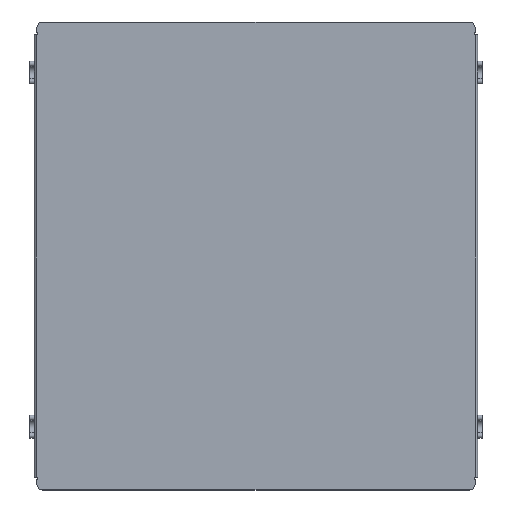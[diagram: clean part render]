
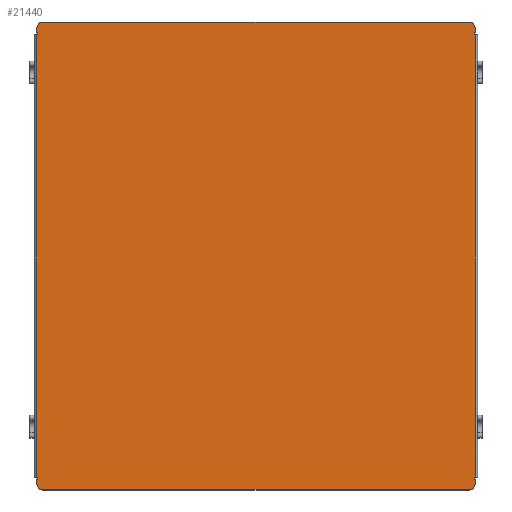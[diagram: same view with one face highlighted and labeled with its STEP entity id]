
A CAD part, top view. The second image highlights one B-rep face of the part: STEP entity #21440.
In plain terms, the highlighted planar face has unit normal (0, 0, 1).
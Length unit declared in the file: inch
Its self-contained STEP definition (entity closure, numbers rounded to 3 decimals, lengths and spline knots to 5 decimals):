
#859=PLANE($,#22841);
#1698=LINE($,#29024,#3843);
#1699=LINE($,#29028,#3844);
#1700=LINE($,#29030,#3845);
#1701=LINE($,#29032,#3846);
#1702=LINE($,#29034,#3847);
#1703=LINE($,#29036,#3848);
#1704=LINE($,#29038,#3849);
#1705=LINE($,#29040,#3850);
#1706=LINE($,#29042,#3851);
#1707=LINE($,#29044,#3852);
#1708=LINE($,#29048,#3853);
#1709=LINE($,#29052,#3854);
#1710=LINE($,#29054,#3855);
#1711=LINE($,#29056,#3856);
#1712=LINE($,#29058,#3857);
#1713=LINE($,#29060,#3858);
#1714=LINE($,#29062,#3859);
#1715=LINE($,#29064,#3860);
#1716=LINE($,#29066,#3861);
#1717=LINE($,#29067,#3862);
#3843=VECTOR($,#24211,16.84);
#3844=VECTOR($,#24214,0.16);
#3845=VECTOR($,#24215,0.046);
#3846=VECTOR($,#24216,0.09);
#3847=VECTOR($,#24217,0.045);
#3848=VECTOR($,#24218,17.5);
#3849=VECTOR($,#24219,0.045);
#3850=VECTOR($,#24220,0.09);
#3851=VECTOR($,#24221,0.046);
#3852=VECTOR($,#24222,0.16);
#3853=VECTOR($,#24225,16.84);
#3854=VECTOR($,#24228,0.16);
#3855=VECTOR($,#24229,0.046);
#3856=VECTOR($,#24230,0.09);
#3857=VECTOR($,#24231,0.045);
#3858=VECTOR($,#24232,17.5);
#3859=VECTOR($,#24233,0.045);
#3860=VECTOR($,#24234,0.09);
#3861=VECTOR($,#24235,0.046);
#3862=VECTOR($,#24236,0.16);
#6170=FACE_OUTER_BOUND($,#7366,.T.);
#7366=EDGE_LOOP($,(#14083,#14084,#14085,#14086,#14087,#14088,#14089,#14090,
#14091,#14092,#14093,#14094,#14095,#14096,#14097,#14098,#14099,#14100,#14101,
#14102,#14103,#14104,#14105,#14106));
#8728=CIRCLE($,#22839,0.25);
#8730=CIRCLE($,#22842,0.25);
#8731=CIRCLE($,#22843,0.25);
#8732=CIRCLE($,#22844,0.25);
#9048=VERTEX_POINT($,#29014);
#9049=VERTEX_POINT($,#29015);
#9052=VERTEX_POINT($,#29023);
#9053=VERTEX_POINT($,#29025);
#9054=VERTEX_POINT($,#29027);
#9055=VERTEX_POINT($,#29029);
#9056=VERTEX_POINT($,#29031);
#9057=VERTEX_POINT($,#29033);
#9058=VERTEX_POINT($,#29035);
#9059=VERTEX_POINT($,#29037);
#9060=VERTEX_POINT($,#29039);
#9061=VERTEX_POINT($,#29041);
#9062=VERTEX_POINT($,#29043);
#9063=VERTEX_POINT($,#29045);
#9064=VERTEX_POINT($,#29047);
#9065=VERTEX_POINT($,#29049);
#9066=VERTEX_POINT($,#29051);
#9067=VERTEX_POINT($,#29053);
#9068=VERTEX_POINT($,#29055);
#9069=VERTEX_POINT($,#29057);
#9070=VERTEX_POINT($,#29059);
#9071=VERTEX_POINT($,#29061);
#9072=VERTEX_POINT($,#29063);
#9073=VERTEX_POINT($,#29065);
#11060=EDGE_CURVE($,#9048,#9049,#8728,.T.);
#11064=EDGE_CURVE($,#9052,#9048,#1698,.T.);
#11065=EDGE_CURVE($,#9053,#9052,#8730,.T.);
#11066=EDGE_CURVE($,#9054,#9053,#1699,.T.);
#11067=EDGE_CURVE($,#9054,#9055,#1700,.T.);
#11068=EDGE_CURVE($,#9055,#9056,#1701,.T.);
#11069=EDGE_CURVE($,#9056,#9057,#1702,.T.);
#11070=EDGE_CURVE($,#9057,#9058,#1703,.T.);
#11071=EDGE_CURVE($,#9058,#9059,#1704,.T.);
#11072=EDGE_CURVE($,#9059,#9060,#1705,.T.);
#11073=EDGE_CURVE($,#9060,#9061,#1706,.T.);
#11074=EDGE_CURVE($,#9062,#9061,#1707,.T.);
#11075=EDGE_CURVE($,#9063,#9062,#8731,.T.);
#11076=EDGE_CURVE($,#9064,#9063,#1708,.T.);
#11077=EDGE_CURVE($,#9065,#9064,#8732,.T.);
#11078=EDGE_CURVE($,#9066,#9065,#1709,.T.);
#11079=EDGE_CURVE($,#9066,#9067,#1710,.T.);
#11080=EDGE_CURVE($,#9067,#9068,#1711,.T.);
#11081=EDGE_CURVE($,#9068,#9069,#1712,.T.);
#11082=EDGE_CURVE($,#9069,#9070,#1713,.T.);
#11083=EDGE_CURVE($,#9070,#9071,#1714,.T.);
#11084=EDGE_CURVE($,#9071,#9072,#1715,.T.);
#11085=EDGE_CURVE($,#9072,#9073,#1716,.T.);
#11086=EDGE_CURVE($,#9049,#9073,#1717,.T.);
#14083=ORIENTED_EDGE($,*,*,#11060,.F.);
#14084=ORIENTED_EDGE($,*,*,#11064,.F.);
#14085=ORIENTED_EDGE($,*,*,#11065,.F.);
#14086=ORIENTED_EDGE($,*,*,#11066,.F.);
#14087=ORIENTED_EDGE($,*,*,#11067,.T.);
#14088=ORIENTED_EDGE($,*,*,#11068,.T.);
#14089=ORIENTED_EDGE($,*,*,#11069,.T.);
#14090=ORIENTED_EDGE($,*,*,#11070,.T.);
#14091=ORIENTED_EDGE($,*,*,#11071,.T.);
#14092=ORIENTED_EDGE($,*,*,#11072,.T.);
#14093=ORIENTED_EDGE($,*,*,#11073,.T.);
#14094=ORIENTED_EDGE($,*,*,#11074,.F.);
#14095=ORIENTED_EDGE($,*,*,#11075,.F.);
#14096=ORIENTED_EDGE($,*,*,#11076,.F.);
#14097=ORIENTED_EDGE($,*,*,#11077,.F.);
#14098=ORIENTED_EDGE($,*,*,#11078,.F.);
#14099=ORIENTED_EDGE($,*,*,#11079,.T.);
#14100=ORIENTED_EDGE($,*,*,#11080,.T.);
#14101=ORIENTED_EDGE($,*,*,#11081,.T.);
#14102=ORIENTED_EDGE($,*,*,#11082,.T.);
#14103=ORIENTED_EDGE($,*,*,#11083,.T.);
#14104=ORIENTED_EDGE($,*,*,#11084,.T.);
#14105=ORIENTED_EDGE($,*,*,#11085,.T.);
#14106=ORIENTED_EDGE($,*,*,#11086,.F.);
#21440=ADVANCED_FACE($,(#6170),#859,.T.);
#22839=AXIS2_PLACEMENT_3D($,#29016,#24203,#24204);
#22841=AXIS2_PLACEMENT_3D($,#29022,#24209,#24210);
#22842=AXIS2_PLACEMENT_3D($,#29026,#24212,#24213);
#22843=AXIS2_PLACEMENT_3D($,#29046,#24223,#24224);
#22844=AXIS2_PLACEMENT_3D($,#29050,#24226,#24227);
#24203=DIRECTION('center_axis',(0.,0.,-1.));
#24204=DIRECTION('ref_axis',(-0.707,-0.707,0.));
#24209=DIRECTION('center_axis',(0.,0.,1.));
#24210=DIRECTION('ref_axis',(1.,0.,0.));
#24211=DIRECTION($,(-1.,0.,0.));
#24212=DIRECTION('center_axis',(0.,0.,-1.));
#24213=DIRECTION('ref_axis',(0.707,-0.707,0.));
#24214=DIRECTION($,(0.,-1.,0.));
#24215=DIRECTION($,(-1.,0.,0.));
#24216=DIRECTION($,(0.,1.,0.));
#24217=DIRECTION($,(1.,0.,0.));
#24218=DIRECTION($,(0.,1.,0.));
#24219=DIRECTION($,(-1.,0.,0.));
#24220=DIRECTION($,(0.,1.,0.));
#24221=DIRECTION($,(1.,0.,0.));
#24222=DIRECTION($,(0.,-1.,0.));
#24223=DIRECTION('center_axis',(0.,0.,-1.));
#24224=DIRECTION('ref_axis',(0.707,0.707,0.));
#24225=DIRECTION($,(1.,0.,0.));
#24226=DIRECTION('center_axis',(0.,0.,-1.));
#24227=DIRECTION('ref_axis',(-0.707,0.707,0.));
#24228=DIRECTION($,(0.,1.,0.));
#24229=DIRECTION($,(1.,0.,0.));
#24230=DIRECTION($,(0.,-1.,0.));
#24231=DIRECTION($,(-1.,0.,0.));
#24232=DIRECTION($,(0.,-1.,0.));
#24233=DIRECTION($,(1.,0.,0.));
#24234=DIRECTION($,(0.,-1.,0.));
#24235=DIRECTION($,(-1.,0.,0.));
#24236=DIRECTION($,(0.,1.,0.));
#29014=CARTESIAN_POINT('',(-8.3113,-9.28663,-0.017));
#29015=CARTESIAN_POINT('',(-8.5613,-9.03663,-0.017));
#29016=CARTESIAN_POINT('Origin',(-8.3113,-9.03663,-0.017));
#29022=CARTESIAN_POINT('Origin',(0.1087,-0.03663,
-0.017));
#29023=CARTESIAN_POINT('',(8.5287,-9.28663,-0.017));
#29024=CARTESIAN_POINT($,(8.7787,-9.28663,-0.017));
#29025=CARTESIAN_POINT('',(8.7787,-9.03663,-0.017));
#29026=CARTESIAN_POINT('Origin',(8.5287,-9.03663,-0.017));
#29027=CARTESIAN_POINT('',(8.7787,-8.87663,-0.017));
#29028=CARTESIAN_POINT($,(8.7787,-8.78663,-0.017));
#29029=CARTESIAN_POINT('',(8.7327,-8.87663,-0.017));
#29030=CARTESIAN_POINT($,(4.4207,-8.87663,-0.017));
#29031=CARTESIAN_POINT('',(8.7327,-8.78663,-0.017));
#29032=CARTESIAN_POINT($,(8.7327,-4.41163,-0.017));
#29033=CARTESIAN_POINT('',(8.7777,-8.78663,-0.017));
#29034=CARTESIAN_POINT($,(4.4437,-8.78663,-0.017));
#29035=CARTESIAN_POINT('',(8.7777,8.71337,-0.017));
#29036=CARTESIAN_POINT($,(8.7777,-4.41163,-0.017));
#29037=CARTESIAN_POINT('',(8.7327,8.71337,-0.017));
#29038=CARTESIAN_POINT($,(4.4207,8.71337,-0.017));
#29039=CARTESIAN_POINT('',(8.7327,8.80337,-0.017));
#29040=CARTESIAN_POINT($,(8.7327,4.38337,-0.017));
#29041=CARTESIAN_POINT('',(8.7787,8.80337,-0.017));
#29042=CARTESIAN_POINT($,(4.4437,8.80337,-0.017));
#29043=CARTESIAN_POINT('',(8.7787,8.96337,-0.017));
#29044=CARTESIAN_POINT($,(8.7787,9.21337,-0.017));
#29045=CARTESIAN_POINT('',(8.5287,9.21337,-0.017));
#29046=CARTESIAN_POINT('Origin',(8.5287,8.96337,-0.017));
#29047=CARTESIAN_POINT('',(-8.3113,9.21337,-0.017));
#29048=CARTESIAN_POINT($,(-8.5613,9.21337,-0.017));
#29049=CARTESIAN_POINT('',(-8.5613,8.96337,-0.017));
#29050=CARTESIAN_POINT('Origin',(-8.3113,8.96337,-0.017));
#29051=CARTESIAN_POINT('',(-8.5613,8.80337,-0.017));
#29052=CARTESIAN_POINT($,(-8.5613,8.71337,-0.017));
#29053=CARTESIAN_POINT('',(-8.5153,8.80337,-0.017));
#29054=CARTESIAN_POINT($,(-4.2033,8.80337,-0.017));
#29055=CARTESIAN_POINT('',(-8.5153,8.71337,-0.017));
#29056=CARTESIAN_POINT($,(-8.5153,4.33837,-0.017));
#29057=CARTESIAN_POINT('',(-8.5603,8.71337,-0.017));
#29058=CARTESIAN_POINT($,(-4.2263,8.71337,-0.017));
#29059=CARTESIAN_POINT('',(-8.5603,-8.78663,-0.017));
#29060=CARTESIAN_POINT($,(-8.5603,4.33837,-0.017));
#29061=CARTESIAN_POINT('',(-8.5153,-8.78663,-0.017));
#29062=CARTESIAN_POINT($,(-4.2033,-8.78663,-0.017));
#29063=CARTESIAN_POINT('',(-8.5153,-8.87663,-0.017));
#29064=CARTESIAN_POINT($,(-8.5153,-4.45663,-0.017));
#29065=CARTESIAN_POINT('',(-8.5613,-8.87663,-0.017));
#29066=CARTESIAN_POINT($,(-4.2263,-8.87663,-0.017));
#29067=CARTESIAN_POINT($,(-8.5613,-9.28663,-0.017));
